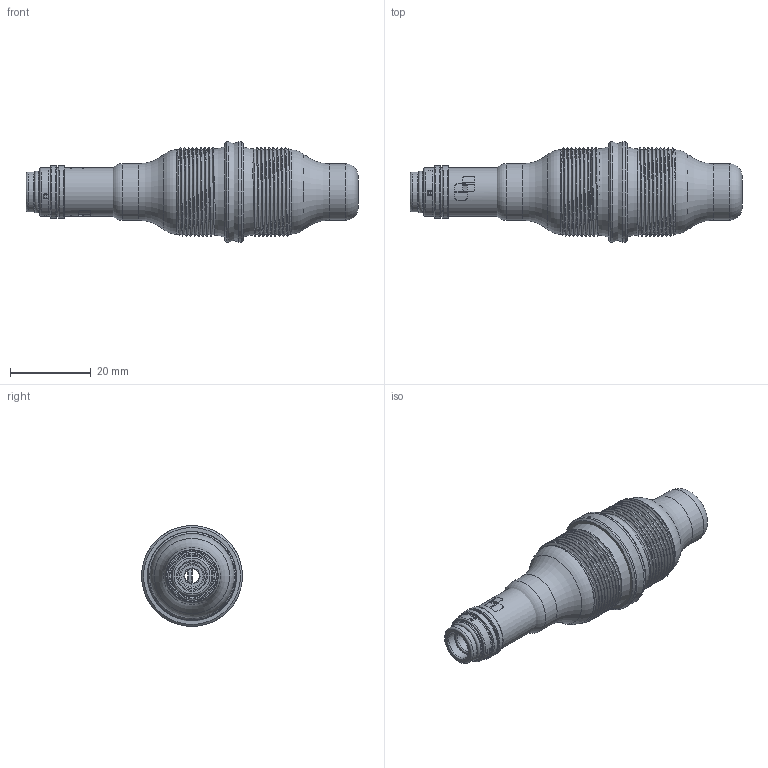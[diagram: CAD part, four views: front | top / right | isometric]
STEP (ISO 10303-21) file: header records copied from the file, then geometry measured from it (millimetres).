
FILE_DESCRIPTION( ( 'Unknown' ), '1' );
FILE_NAME( 'C:/Documents and Settings/Owner/官帕 拳搁/VC252P.stp', 'Unknown', ( 'Unknown' ), ( 'Unknown' ), 'PSStep 10.0', 'Unknown', ' ' );
FILE_SCHEMA( ( 'AUTOMOTIVE_DESIGN { 1 0 10303 214 1 1 1 1 }' ) );
Length unit declared in the file: millimetre
Products named in the file (8): Assem1; Nozzle Body-252; Nozzle-C2.53; Housing-VC252; Check valve-2.5-2; Stopring-253; VC252-Plug
Bounding box: 82.3 x 25 x 25 mm (x, y, z)
Volume: 23318.1 mm3; surface area: 32117.5 mm2
Topology: 14 solids, 14 shells, 990 faces, 2380 edges, 1434 vertices
Faces by surface type: plane 384, cylinder 310, torus 216, sphere 56, cone 16, bspline 8
Full cylindrical faces by diameter (mm): 3.6 x2, 3.8 x2, 4 x2, 5.4 x2, 5.5 x2, 6.2 x2, 6.3 x6, 6.6 x4, 7 x2, 7.4 x6, 7.8 x6, 8 x4, 8.2 x4, 8.4 x2, 8.412 x2, 8.6 x4, 9.2 x2, 9.9 x4, 10 x14, 11 x10, 12 x6, 13 x4, 14 x4, 17 x2, 19.9 x2, 20.938 x2, 25 x2
Entity records: 19628 total; most frequent: CARTESIAN_POINT 4623, DIRECTION 2368, ORIENTED_EDGE 2054, EDGE_CURVE 1027, AXIS2_PLACEMENT_3D 957, VERTEX_POINT 688, EDGE_LOOP 675, FACE_OUTER_BOUND 599
